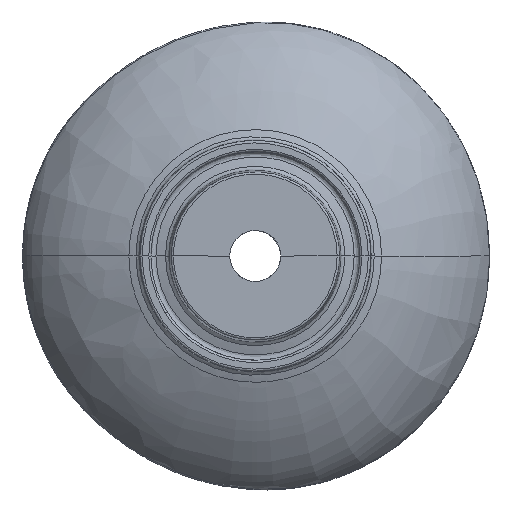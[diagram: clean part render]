
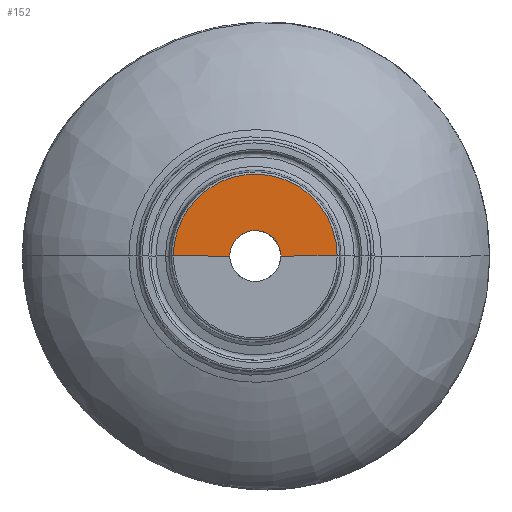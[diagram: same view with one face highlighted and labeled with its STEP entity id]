
A CAD part, front view. The second image highlights one B-rep face of the part: STEP entity #152.
In plain terms, the highlighted free-form (B-spline) face has degree [3, 3] with [4, 4] control points.
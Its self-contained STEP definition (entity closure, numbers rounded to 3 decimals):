
#103=B_SPLINE_SURFACE_WITH_KNOTS('',3,3,((#3136,#3137,#3138,#3139),(#3140,
#3141,#3142,#3143),(#3144,#3145,#3146,#3147),(#3148,#3149,#3150,#3151)),
 .UNSPECIFIED.,.F.,.F.,.F.,(4,4),(4,4),(0.,1.),(0.,1.),.UNSPECIFIED.);
#152=ADVANCED_FACE('',(#248),#103,.T.);
#248=FACE_OUTER_BOUND('',#338,.T.);
#338=EDGE_LOOP('',(#646,#647,#648,#649,#650));
#413=B_SPLINE_CURVE_WITH_KNOTS('',3,(#1393,#1394,#1395,#1396,#1397,#1398,
#1399),.UNSPECIFIED.,.F.,.F.,(4,1,1,1,4),(0.,0.25,0.5,0.75,1.),.UNSPECIFIED.);
#416=B_SPLINE_CURVE_WITH_KNOTS('',3,(#1421,#1422,#1423,#1424,#1425,#1426,
#1427,#1428,#1429,#1430,#1431),.UNSPECIFIED.,.F.,.F.,(4,1,1,1,1,1,1,1,4),
(0.,0.125,0.25,0.375,0.5,0.625,0.75,0.875,1.),.UNSPECIFIED.);
#450=B_SPLINE_CURVE_WITH_KNOTS('',3,(#3092,#3093,#3094,#3095),.UNSPECIFIED.,
 .F.,.F.,(4,4),(0.,1.),.UNSPECIFIED.);
#451=B_SPLINE_CURVE_WITH_KNOTS('',3,(#3097,#3098,#3099,#3100,#3101,#3102,
#3103,#3104,#3105,#3106,#3107,#3108,#3109,#3110,#3111,#3112,#3113,#3114,
#3115,#3116,#3117,#3118,#3119,#3120,#3121,#3122,#3123,#3124,#3125,#3126,
#3127,#3128,#3129,#3130),.UNSPECIFIED.,.F.,.F.,(4,2,2,2,2,2,2,2,2,2,2,2,
2,2,2,2,4),(0.,0.063,0.125,0.188,0.25,0.313,0.375,0.438,0.5,0.563,0.625,
0.688,0.75,0.813,0.875,0.938,1.),.UNSPECIFIED.);
#452=B_SPLINE_CURVE_WITH_KNOTS('',3,(#3132,#3133,#3134,#3135),.UNSPECIFIED.,
 .F.,.F.,(4,4),(0.,1.),.UNSPECIFIED.);
#646=ORIENTED_EDGE('',*,*,#1111,.T.);
#647=ORIENTED_EDGE('',*,*,#1112,.T.);
#648=ORIENTED_EDGE('',*,*,#1113,.T.);
#649=ORIENTED_EDGE('',*,*,#1067,.F.);
#650=ORIENTED_EDGE('',*,*,#1064,.F.);
#961=VERTEX_POINT('',#1382);
#963=VERTEX_POINT('',#1392);
#965=VERTEX_POINT('',#1409);
#997=VERTEX_POINT('',#3096);
#998=VERTEX_POINT('',#3131);
#1064=EDGE_CURVE('',#963,#961,#413,.T.);
#1067=EDGE_CURVE('',#961,#965,#416,.T.);
#1111=EDGE_CURVE('',#963,#997,#450,.T.);
#1112=EDGE_CURVE('',#997,#998,#451,.T.);
#1113=EDGE_CURVE('',#998,#965,#452,.T.);
#1382=CARTESIAN_POINT('',(0.,-24.276,-40.124));
#1392=CARTESIAN_POINT('',(24.276,0.,-40.124));
#1393=CARTESIAN_POINT('',(24.276,0.,-40.124));
#1394=CARTESIAN_POINT('',(24.276,-3.177,-40.124));
#1395=CARTESIAN_POINT('',(23.012,-9.532,-40.124));
#1396=CARTESIAN_POINT('',(17.613,-17.613,-40.124));
#1397=CARTESIAN_POINT('',(9.532,-23.012,-40.124));
#1398=CARTESIAN_POINT('',(3.178,-24.276,-40.124));
#1399=CARTESIAN_POINT('',(0.,-24.276,-40.124));
#1409=CARTESIAN_POINT('',(-24.276,0.,-40.124));
#1421=CARTESIAN_POINT('',(0.,-24.276,-40.124));
#1422=CARTESIAN_POINT('',(-1.589,-24.276,-40.124));
#1423=CARTESIAN_POINT('',(-4.767,-23.963,-40.124));
#1424=CARTESIAN_POINT('',(-9.35,-22.573,-40.124));
#1425=CARTESIAN_POINT('',(-13.574,-20.315,-40.124));
#1426=CARTESIAN_POINT('',(-17.276,-17.276,-40.124));
#1427=CARTESIAN_POINT('',(-20.315,-13.574,-40.124));
#1428=CARTESIAN_POINT('',(-22.573,-9.35,-40.124));
#1429=CARTESIAN_POINT('',(-23.963,-4.767,-40.124));
#1430=CARTESIAN_POINT('',(-24.276,-1.589,-40.124));
#1431=CARTESIAN_POINT('',(-24.276,0.,-40.124));
#3092=CARTESIAN_POINT('',(24.276,0.,-40.124));
#3093=CARTESIAN_POINT('',(42.229,0.,-40.124));
#3094=CARTESIAN_POINT('',(60.182,0.,-40.124));
#3095=CARTESIAN_POINT('',(78.135,0.,-40.124));
#3096=CARTESIAN_POINT('',(78.135,0.,-40.124));
#3097=CARTESIAN_POINT('',(78.135,0.,-40.124));
#3098=CARTESIAN_POINT('',(78.135,-5.161,-40.124));
#3099=CARTESIAN_POINT('',(77.629,-10.237,-40.124));
#3100=CARTESIAN_POINT('',(75.644,-20.222,-40.124));
#3101=CARTESIAN_POINT('',(74.142,-25.183,-40.124));
#3102=CARTESIAN_POINT('',(70.221,-34.645,-40.124));
#3103=CARTESIAN_POINT('',(67.822,-39.133,-40.124));
#3104=CARTESIAN_POINT('',(62.153,-47.626,-40.124));
#3105=CARTESIAN_POINT('',(58.853,-51.647,-40.124));
#3106=CARTESIAN_POINT('',(51.645,-58.855,-40.124));
#3107=CARTESIAN_POINT('',(47.712,-62.089,-40.124));
#3108=CARTESIAN_POINT('',(39.172,-67.801,-40.124));
#3109=CARTESIAN_POINT('',(34.625,-70.229,-40.124));
#3110=CARTESIAN_POINT('',(25.224,-74.126,-40.124));
#3111=CARTESIAN_POINT('',(20.302,-75.626,-40.124));
#3112=CARTESIAN_POINT('',(10.217,-77.635,-40.124));
#3113=CARTESIAN_POINT('',(5.148,-78.132,-40.124));
#3114=CARTESIAN_POINT('',(-5.042,-78.138,-40.124));
#3115=CARTESIAN_POINT('',(-10.217,-77.632,-40.124));
#3116=CARTESIAN_POINT('',(-20.238,-75.641,-40.124));
#3117=CARTESIAN_POINT('',(-25.109,-74.168,-40.124));
#3118=CARTESIAN_POINT('',(-34.568,-70.259,-40.124));
#3119=CARTESIAN_POINT('',(-39.145,-67.814,-40.124));
#3120=CARTESIAN_POINT('',(-47.613,-62.161,-40.124));
#3121=CARTESIAN_POINT('',(-51.561,-58.934,-40.124));
#3122=CARTESIAN_POINT('',(-58.858,-51.647,-40.124));
#3123=CARTESIAN_POINT('',(-62.1,-47.693,-40.124));
#3124=CARTESIAN_POINT('',(-67.762,-39.234,-40.124));
#3125=CARTESIAN_POINT('',(-70.209,-34.671,-40.124));
#3126=CARTESIAN_POINT('',(-74.136,-25.204,-40.124));
#3127=CARTESIAN_POINT('',(-75.615,-20.334,-40.124));
#3128=CARTESIAN_POINT('',(-77.618,-10.326,-40.124));
#3129=CARTESIAN_POINT('',(-78.135,-5.161,-40.124));
#3130=CARTESIAN_POINT('',(-78.135,0.,-40.124));
#3131=CARTESIAN_POINT('',(-78.135,0.,-40.124));
#3132=CARTESIAN_POINT('',(-78.135,0.,-40.124));
#3133=CARTESIAN_POINT('',(-60.182,0.,-40.124));
#3134=CARTESIAN_POINT('',(-42.229,0.,-40.124));
#3135=CARTESIAN_POINT('',(-24.276,0.,-40.124));
#3136=CARTESIAN_POINT('',(88.,-84.,-40.124));
#3137=CARTESIAN_POINT('',(88.,-54.667,-40.124));
#3138=CARTESIAN_POINT('',(88.,-25.333,-40.124));
#3139=CARTESIAN_POINT('',(88.,4.,-40.124));
#3140=CARTESIAN_POINT('',(29.333,-84.,-40.124));
#3141=CARTESIAN_POINT('',(29.333,-54.667,-40.124));
#3142=CARTESIAN_POINT('',(29.333,-25.333,-40.124));
#3143=CARTESIAN_POINT('',(29.333,4.,-40.124));
#3144=CARTESIAN_POINT('',(-29.333,-84.,-40.124));
#3145=CARTESIAN_POINT('',(-29.333,-54.667,-40.124));
#3146=CARTESIAN_POINT('',(-29.333,-25.333,-40.124));
#3147=CARTESIAN_POINT('',(-29.333,4.,-40.124));
#3148=CARTESIAN_POINT('',(-88.,-84.,-40.124));
#3149=CARTESIAN_POINT('',(-88.,-54.667,-40.124));
#3150=CARTESIAN_POINT('',(-88.,-25.333,-40.124));
#3151=CARTESIAN_POINT('',(-88.,4.,-40.124));
